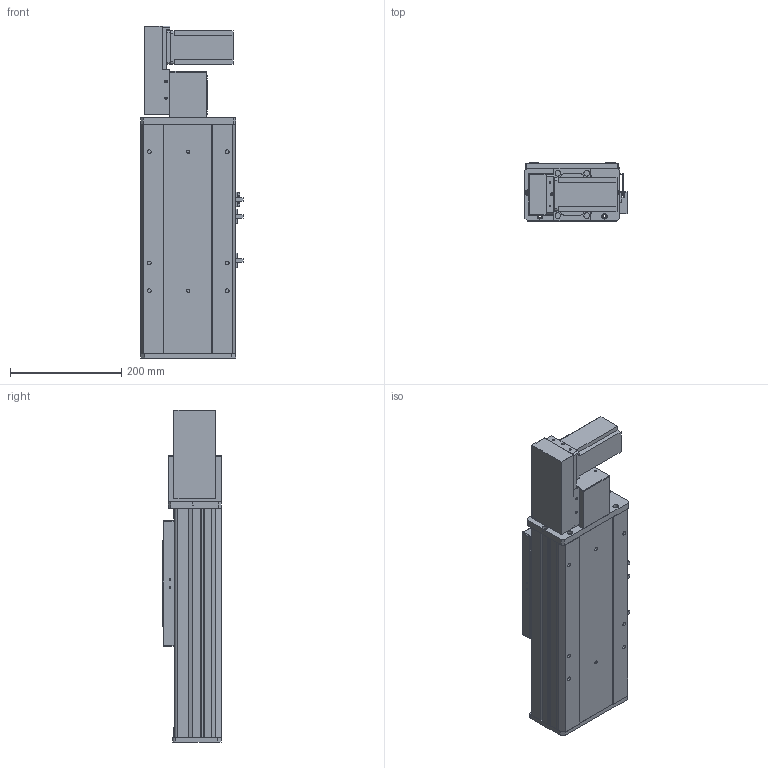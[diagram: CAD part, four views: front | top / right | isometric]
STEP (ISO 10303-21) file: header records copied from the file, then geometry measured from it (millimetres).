
FILE_DESCRIPTION (( 'STEP AP203' ), '1' );
FILE_NAME ('Y170CB-D105-S100-BL-P400W.STEP', '2020-02-20T01:00:14', ( '微软用户' ), ( '微软中国' ), 'SwSTEP 2.0', 'SolidWorks 2017', '' );
FILE_SCHEMA (( 'CONFIG_CONTROL_DESIGN' ));
Length unit declared in the file: millimetre
Products named in the file (18): 70C-雄赽釱-奻-; 0B-萇儂楊擘啣; 0C--雄赽釱俋欶-170; san松下电机400不带刹车----; 70CB-詩湍--; Y70俋欶BR----; Y100-135俋离換覜ん--; 70CB-掛极-; Y170CB-陔俋离換覜結え---; --70CB --喘謫眊楊擘啣-; 70B喘謫眊----; 70CB-耜裔啣-; Y1埴倛裔; 70C--詩湍揤踡え-; B-源倛裔啣; Y170CB-D105-S100-BL-P400W; 70CB--耜裔; 17B-耜蚾蟀諉啣----
Assembly tree (21 placements, depth 2):
  Y170CB-D105-S100-BL-P400W
    B-源倛裔啣
    17B-耜蚾蟀諉啣----
    0B-萇儂楊擘啣
    san松下电机400不带刹车----
    Y70俋欶BR----
    70CB-掛极-
    --70CB --喘謫眊楊擘啣-
    70CB-耜裔啣-  x2
    70C--詩湍揤踡え-  x2
    70CB--耜裔
    70C-雄赽釱-奻-
    0C--雄赽釱俋欶-170
    70CB-詩湍--
    Y100-135俋离換覜ん--  x3
    Y170CB-陔俋离換覜結え---
    70B喘謫眊----
    Y1埴倛裔
Bounding box: 183.5 x 107 x 597 mm (x, y, z)
Volume: 2993381.3 mm3; surface area: 1051146.9 mm2
Topology: 21 solids, 21 shells, 975 faces, 2597 edges, 1722 vertices
Faces by surface type: cylinder 487, plane 464, cone 24
Entity records: 30860 total; most frequent: CARTESIAN_POINT 5616, DIRECTION 5014, ORIENTED_EDGE 4676, EDGE_CURVE 2338, AXIS2_PLACEMENT_3D 1824, VERTEX_POINT 1552, VECTOR 1366, LINE 1366
